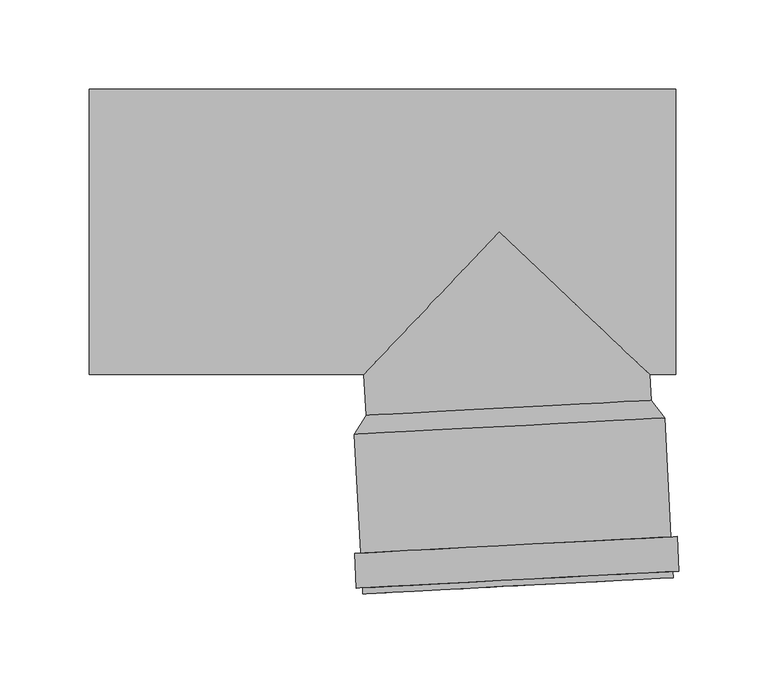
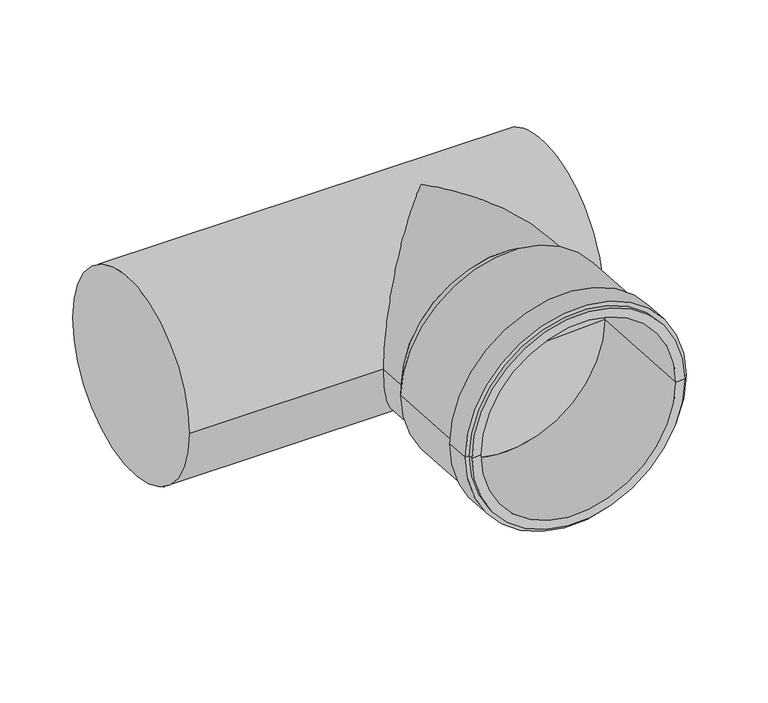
"""IFC4 building model written with IfcOpenShell, lengths in millimetres: pipe fitting geometry, pf_HTEA : pf_HTEA."""

from ifc_helpers import new_model, si_unit, frame, origin, place, context, project, spatial, polyline, circle_curve, ellipse_curve, source, transform, mapped, element, save
from ifc_brep_helpers import plane_surface, cylinder_surface, revolved_surface, advanced_brep


def pipe_fitting_6e352d12(model_context):
    return source(origin(), model_context, "Body", "AdvancedBrep", [
        advanced_brep(
        [(-74.7143367, -102.9513375, 0.0), (85.0663889, -94.5775845, 0.0), (92.6957189, -104.4918834, 0.0), (-81.2655461, -113.608807, 0.0), (5.1760261, -98.764461, 0.0), (-76.5710108, -203.1858763, 0.0), (97.3902542, -194.0689527, 0.0), (90.2999845, -194.440538, 0.0), (-69.4807411, -202.814291, 0.0), (-76.748953, -199.7905358, 0.0), (97.2123119, -190.6736123, 0.0), (-80.1442934, -199.9684781, 0.0), (100.6076523, -190.49567, 0.0), (-81.1648446, -180.4952022, 0.0), (99.5871012, -171.0223941, 0.0), (-77.7695042, -180.3172599, 0.0), (96.1917608, -171.2003363, 0.0), (-74.1752764, -113.2372217, 0.0), (85.6054492, -104.8634687, 0.0), (5.7150864, -109.0503452, 0.0)],
        [
            (0, 1, circle_curve(frame((5.1760261, -98.764461, 0.0), z_axis=(0.0523359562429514, -0.9986295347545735, 0.0), x_axis=(0.9986295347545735, 0.0523359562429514, 0.0)), 80.0)),
            (1, 2),
            (2, 3, circle_curve(frame((5.7150864, -109.0503452, 0.0), z_axis=(-0.0523359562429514, 0.9986295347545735, 0.0), x_axis=(0.9986295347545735, 0.0523359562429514, 0.0)), 87.1)),
            (3, 0),
            (1, 0, circle_curve(frame((5.1760261, -98.764461, 0.0), z_axis=(0.0523359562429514, -0.9986295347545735, 0.0), x_axis=(0.9986295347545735, 0.0523359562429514, 0.0)), 80.0)),
            (3, 2, circle_curve(frame((5.7150864, -109.0503452, 0.0), z_axis=(-0.0523359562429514, 0.9986295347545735, 0.0), x_axis=(0.9986295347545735, 0.0523359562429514, 0.0)), 87.1)),
            (4, 1),
            (0, 4),
            (5, 6, circle_curve(frame((10.4096217, -198.6274145, 0.0), z_axis=(0.0523359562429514, -0.9986295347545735, 0.0), x_axis=(0.9986295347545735, 0.0523359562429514, 0.0)), 87.1)),
            (6, 7),
            (7, 8, circle_curve(frame((10.4096217, -198.6274145, 0.0), z_axis=(-0.0523359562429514, 0.9986295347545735, 0.0), x_axis=(0.9986295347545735, 0.0523359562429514, 0.0)), 80.0)),
            (8, 5),
            (6, 5, circle_curve(frame((10.4096217, -198.6274145, 0.0), z_axis=(0.0523359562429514, -0.9986295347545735, 0.0), x_axis=(0.9986295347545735, 0.0523359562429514, 0.0)), 87.1)),
            (8, 7, circle_curve(frame((10.4096217, -198.6274145, 0.0), z_axis=(-0.0523359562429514, 0.9986295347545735, 0.0), x_axis=(0.9986295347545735, 0.0523359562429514, 0.0)), 80.0)),
            (9, 10, circle_curve(frame((10.2316794, -195.232074, 0.0), z_axis=(0.0523359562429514, -0.9986295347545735, 0.0), x_axis=(0.9986295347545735, 0.0523359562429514, 0.0)), 87.1)),
            (10, 6),
            (5, 9),
            (10, 9, circle_curve(frame((10.2316794, -195.232074, 0.0), z_axis=(0.0523359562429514, -0.9986295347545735, 0.0), x_axis=(0.9986295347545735, 0.0523359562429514, 0.0)), 87.1)),
            (11, 12, circle_curve(frame((10.2316794, -195.232074, 0.0), z_axis=(0.0523359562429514, -0.9986295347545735, 0.0), x_axis=(0.9986295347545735, 0.0523359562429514, 0.0)), 90.5)),
            (12, 10),
            (9, 11),
            (12, 11, circle_curve(frame((10.2316794, -195.232074, 0.0), z_axis=(0.0523359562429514, -0.9986295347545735, 0.0), x_axis=(0.9986295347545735, 0.0523359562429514, 0.0)), 90.5)),
            (13, 14, circle_curve(frame((9.2111283, -175.7587981, 0.0), z_axis=(0.0523359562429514, -0.9986295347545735, 0.0), x_axis=(0.9986295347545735, 0.0523359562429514, 0.0)), 90.5)),
            (14, 12),
            (11, 13),
            (14, 13, circle_curve(frame((9.2111283, -175.7587981, 0.0), z_axis=(0.0523359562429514, -0.9986295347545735, 0.0), x_axis=(0.9986295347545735, 0.0523359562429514, 0.0)), 90.5)),
            (15, 16, circle_curve(frame((9.2111283, -175.7587981, 0.0), z_axis=(0.0523359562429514, -0.9986295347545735, 0.0), x_axis=(0.9986295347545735, 0.0523359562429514, 0.0)), 87.1)),
            (16, 14),
            (13, 15),
            (16, 15, circle_curve(frame((9.2111283, -175.7587981, 0.0), z_axis=(0.0523359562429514, -0.9986295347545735, 0.0), x_axis=(0.9986295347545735, 0.0523359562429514, 0.0)), 87.1)),
            (2, 16),
            (15, 3),
            (17, 18, circle_curve(frame((5.7150864, -109.0503452, 0.0), z_axis=(0.0523359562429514, -0.9986295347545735, 0.0), x_axis=(0.9986295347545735, 0.0523359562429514, 0.0)), 80.0)),
            (18, 19),
            (19, 17),
            (18, 17, circle_curve(frame((5.7150864, -109.0503452, 0.0), z_axis=(0.0523359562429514, -0.9986295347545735, 0.0), x_axis=(0.9986295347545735, 0.0523359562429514, 0.0)), 80.0)),
            (7, 18),
            (17, 8),
        ],
        [
            revolved_surface(polyline([(92.6957189, -104.4918834, 0.0), (85.0663889, -94.5775845, 0.0)]), (5.1760261, -98.764461, 0.0), (-0.0523359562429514, 0.9986295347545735, 0.0)),
            plane_surface(frame((5.1760261, -98.764461, 0.0), z_axis=(-0.0523359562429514, 0.9986295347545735, 0.0), x_axis=(0.9986295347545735, 0.0523359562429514, 0.0))),
            plane_surface(frame((10.4096217, -198.6274145, 0.0), z_axis=(0.0523359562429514, -0.9986295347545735, 0.0), x_axis=(0.9986295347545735, 0.0523359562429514, 0.0))),
            cylinder_surface(frame((5.1760261, -98.764461, 0.0), z_axis=(-0.0523359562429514, 0.9986295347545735, 0.0), x_axis=(0.9986295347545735, 0.0523359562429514, 0.0)), 87.1),
            plane_surface(frame((10.2316794, -195.232074, 0.0), z_axis=(0.0523359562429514, -0.9986295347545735, 0.0), x_axis=(0.9986295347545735, 0.0523359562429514, 0.0))),
            cylinder_surface(frame((5.1760261, -98.764461, 0.0), z_axis=(-0.0523359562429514, 0.9986295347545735, 0.0), x_axis=(0.9986295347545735, 0.0523359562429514, 0.0)), 90.5),
            plane_surface(frame((9.2111283, -175.7587981, 0.0), z_axis=(-0.0523359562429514, 0.9986295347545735, 0.0), x_axis=(0.9986295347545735, 0.0523359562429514, 0.0))),
            plane_surface(frame((5.7150864, -109.0503452, 0.0), z_axis=(0.0523359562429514, -0.9986295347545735, 0.0), x_axis=(0.9986295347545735, 0.0523359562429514, 0.0))),
            revolved_surface(polyline([(85.60544922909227, -104.86346869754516, 0.0), (90.29998450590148, -194.44053799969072, 0.0)]), (5.1760261, -98.764461, 0.0), (-0.0523359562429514, 0.9986295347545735, 0.0)),
        ],
        [
            (0, [[1, 2, 3, 4]]),
            (0, [[5, -4, 6, -2]]),
            (1, [[7, -1, 8]]),
            (1, [[-8, -5, -7]]),
            (2, [[9, 10, 11, 12]]),
            (2, [[13, -12, 14, -10]]),
            (3, [[15, 16, -9, 17]]),
            (3, [[18, -17, -13, -16]]),
            (4, [[19, 20, -15, 21]]),
            (4, [[22, -21, -18, -20]]),
            (5, [[23, 24, -19, 25]]),
            (5, [[26, -25, -22, -24]]),
            (6, [[27, 28, -23, 29]]),
            (6, [[30, -29, -26, -28]]),
            (3, [[-3, 31, -27, 32]]),
            (3, [[-6, -32, -30, -31]]),
            (7, [[33, 34, 35]]),
            (7, [[36, -35, -34]]),
            (8, [[-11, 37, -33, 38]]),
            (8, [[-14, -38, -36, -37]]),
        ],
    ),
        advanced_brep(
        [(-74.7143367, -102.9513375, 0.0), (85.0663889, -94.5775845, 0.0), (-230.0, -80.0, 0.0), (-230.0, 80.0, 0.0), (98.9, -80.0, 0.0), (98.9, 80.0, 0.0), (-75.9171653, -80.0, 0.0), (0.0, 0.0, 80.0), (84.30241, -80.0, 0.0), (0.0, 0.0, -80.0)],
        [
            (0, 1, circle_curve(frame((5.1760261, -98.764461, 0.0), z_axis=(0.052335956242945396, -0.9986295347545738, 0.0), x_axis=(0.9986295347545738, 0.052335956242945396, 0.0)), 80.0)),
            (1, 0, circle_curve(frame((5.1760261, -98.764461, 0.0), z_axis=(0.052335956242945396, -0.9986295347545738, 0.0), x_axis=(0.9986295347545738, 0.052335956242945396, 0.0)), 80.0)),
            (2, 3, circle_curve(frame((-230.0, 0.0, 0.0), z_axis=(-1.0, 0.0, 0.0), x_axis=(0.0, 1.0, 0.0)), 80.0)),
            (3, 2, circle_curve(frame((-230.0, 0.0, 0.0), z_axis=(-1.0, 0.0, 0.0), x_axis=(0.0, 1.0, 0.0)), 80.0)),
            (4, 5, circle_curve(frame((98.9, 0.0, 0.0), z_axis=(1.0, 0.0, 0.0), x_axis=(0.0, 1.0, 0.0)), 80.0)),
            (5, 4, circle_curve(frame((98.9, 0.0, 0.0), z_axis=(1.0, 0.0, 0.0), x_axis=(0.0, 1.0, 0.0)), 80.0)),
            (2, 6),
            (6, 7, ellipse_curve(frame((0.0, 0.0, 0.0), z_axis=(-0.7253743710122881, 0.6883545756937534, 0.0), x_axis=(-0.6883545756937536, -0.725374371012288, 0.0)), 110.2878778, 80.0)),
            (7, 8, ellipse_curve(frame((0.0, 0.0, 0.0), z_axis=(0.6883545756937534, 0.7253743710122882, 0.0), x_axis=(-0.7253743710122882, 0.6883545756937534, 0.0)), 116.2191737, 80.0)),
            (8, 4),
            (5, 3),
            (8, 9, ellipse_curve(frame((0.0, 0.0, 0.0), z_axis=(0.6883545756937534, 0.7253743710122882, 0.0), x_axis=(-0.7253743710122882, 0.6883545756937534, 0.0)), 116.2191737, 80.0)),
            (9, 6, ellipse_curve(frame((0.0, 0.0, 0.0), z_axis=(-0.7253743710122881, 0.6883545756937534, 0.0), x_axis=(-0.6883545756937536, -0.725374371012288, 0.0)), 110.2878778, 80.0)),
            (1, 8),
            (6, 0),
        ],
        [
            plane_surface(frame((5.1760261, -98.764461, 0.0), z_axis=(0.05233595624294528, -0.9986295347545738, 0.0), x_axis=(0.0, 0.0, 1.0))),
            plane_surface(frame((-230.0, 0.0, 0.0), z_axis=(-1.0, 0.0, 0.0), x_axis=(0.0, 0.0, 1.0))),
            plane_surface(frame((98.9, 0.0, 0.0), z_axis=(1.0, 0.0, 0.0), x_axis=(0.0, 0.0, 1.0))),
            cylinder_surface(frame((-230.0, 0.0, 0.0), z_axis=(-1.0, 0.0, 0.0), x_axis=(0.0, 1.0, 0.0)), 80.0),
            cylinder_surface(frame((0.0, 0.0, 0.0), z_axis=(-0.052335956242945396, 0.9986295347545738, 0.0), x_axis=(0.9986295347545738, 0.052335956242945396, 0.0)), 80.0),
        ],
        [
            (0, [[1, 2]]),
            (1, [[3, 4]]),
            (2, [[5, 6]]),
            (3, [[-3, 7, 8, 9, 10, -6, 11]]),
            (3, [[-4, -11, -5, -10, 12, 13, -7]]),
            (4, [[-2, 14, -9, -8, 15]]),
            (4, [[-1, -15, -13, -12, -14]]),
        ],
    ),
    ])


if __name__ == "__main__":
    model = new_model("IFC4")
    model_context = context("Model", 3, world=origin())
    ifc_project = project(units=[si_unit("LENGTHUNIT", "METRE", prefix="MILLI")], contexts=[model_context])
    site = spatial("IfcSite", under=ifc_project)
    building = spatial("IfcBuilding", under=site)
    placement = place(None, origin())
    pipe_fitting_shape = pipe_fitting_6e352d12(model_context)
    element("IfcPipeFitting", 1, ObjectType="pf_HTEA : pf_HTEA", at=placement, inside=building, context=model_context, shape_type="MappedRepresentation", body=[
        mapped(pipe_fitting_shape, transform((0.0, 0.0, 0.0), x_axis=(1.0, 0.0, 0.0), y_axis=(0.0, 1.0, 0.0), z_axis=(0.0, 0.0, 1.0))),
    ])
    save(model, "model.ifc")
